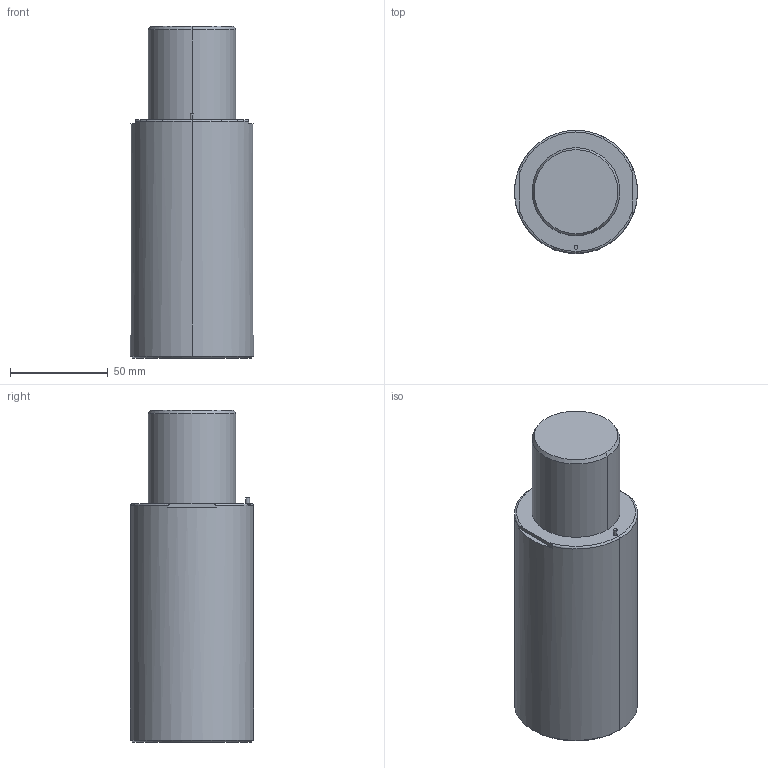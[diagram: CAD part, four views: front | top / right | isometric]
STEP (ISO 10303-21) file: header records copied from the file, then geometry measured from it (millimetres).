
FILE_DESCRIPTION(/* description */ (''),/* implementation_level */ '2;1');
FILE_NAME(/* name */ '3d_gsx63-45_03992_r00.stp',/* time_stamp */ '2011-01-10T14:15:12+09:00',/* author */ ('MISUMI'),/* organization */ (''),/* preprocessor_version */ 'ST-DEVELOPER v11',/* originating_system */ 'UGS - NX 5.0',/* authorisation */ '');
FILE_SCHEMA (('CONFIG_CONTROL_DESIGN'));
Length unit declared in the file: millimetre
Products named in the file (1): 3d_gsx63-45_03992_r00
Bounding box: 63 x 63 x 170 mm (x, y, z)
Volume: 452930.1 mm3; surface area: 38574.8 mm2
Topology: 1 solids, 1 shells, 59 faces, 130 edges, 78 vertices
Faces by surface type: cylinder 28, plane 15, cone 12, torus 4
Entity records: 1692 total; most frequent: DIRECTION 308, CARTESIAN_POINT 288, ORIENTED_EDGE 244, AXIS2_PLACEMENT_3D 130, EDGE_CURVE 122, VERTEX_POINT 78, EDGE_LOOP 72, CIRCLE 70
